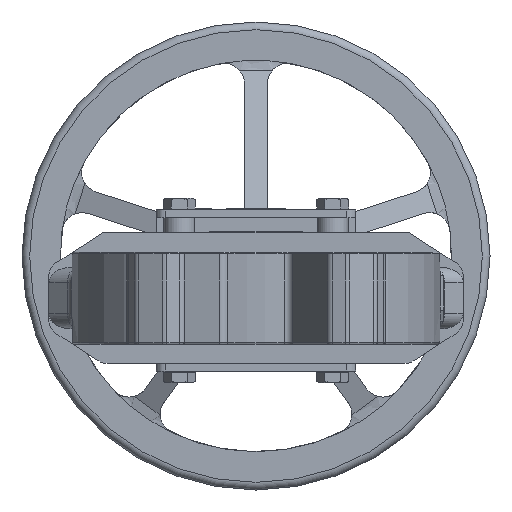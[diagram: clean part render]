
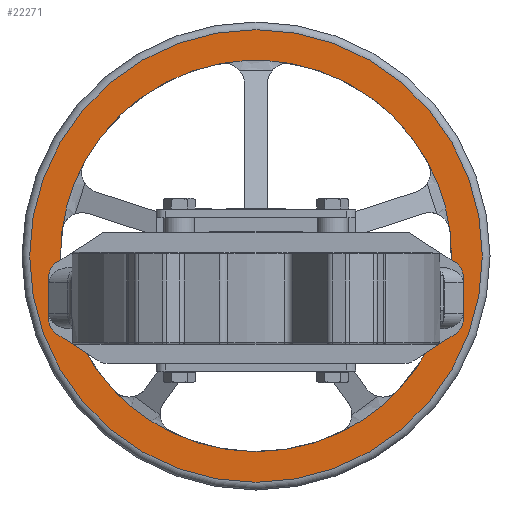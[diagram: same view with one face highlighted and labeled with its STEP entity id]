
A CAD part, front view. The second image highlights one B-rep face of the part: STEP entity #22271.
In plain terms, the highlighted planar face has unit normal (0, -1, 0).
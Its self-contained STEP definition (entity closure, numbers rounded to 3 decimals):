
#17884=CARTESIAN_POINT('',(-126.399,551.,44.221));
#17885=VERTEX_POINT('',#17884);
#18532=CARTESIAN_POINT('',(-54.962,551.,-87.545));
#18533=VERTEX_POINT('',#18532);
#19182=CARTESIAN_POINT('',(92.43,551.0,-60.323));
#19183=VERTEX_POINT('',#19182);
#19830=CARTESIAN_POINT('',(112.087,551.,88.268));
#19831=VERTEX_POINT('',#19830);
#20306=CARTESIAN_POINT('',(-112.087,551.,88.268));
#20307=VERTEX_POINT('',#20306);
#20327=CARTESIAN_POINT('',(0.,551.0,27.5));
#20328=DIRECTION('',(0.0,1.0,0.0));
#20329=DIRECTION('',(1.0,0.0,0.0));
#20330=AXIS2_PLACEMENT_3D('',#20327,#20328,#20329);
#20331=CIRCLE('',#20330,127.5);
#20332=EDGE_CURVE('',#17885,#20307,#20331,.T.);
#20487=CARTESIAN_POINT('',(-92.43,551.,-60.323));
#20488=VERTEX_POINT('',#20487);
#20508=CARTESIAN_POINT('',(0.,551.0,27.5));
#20509=DIRECTION('',(0.0,1.0,0.0));
#20510=DIRECTION('',(1.0,0.0,0.0));
#20511=AXIS2_PLACEMENT_3D('',#20508,#20509,#20510);
#20512=CIRCLE('',#20511,127.5);
#20513=EDGE_CURVE('',#18533,#20488,#20512,.T.);
#20665=CARTESIAN_POINT('',(54.962,551.0,-87.545));
#20666=VERTEX_POINT('',#20665);
#20686=CARTESIAN_POINT('',(0.,551.0,27.5));
#20687=DIRECTION('',(0.0,1.0,0.0));
#20688=DIRECTION('',(1.0,0.0,0.0));
#20689=AXIS2_PLACEMENT_3D('',#20686,#20687,#20688);
#20690=CIRCLE('',#20689,127.5);
#20691=EDGE_CURVE('',#19183,#20666,#20690,.T.);
#20846=CARTESIAN_POINT('',(126.399,551.,44.221));
#20847=VERTEX_POINT('',#20846);
#20867=CARTESIAN_POINT('',(0.,551.0,27.5));
#20868=DIRECTION('',(0.0,1.0,0.0));
#20869=DIRECTION('',(1.0,0.0,0.0));
#20870=AXIS2_PLACEMENT_3D('',#20867,#20868,#20869);
#20871=CIRCLE('',#20870,127.5);
#20872=EDGE_CURVE('',#19831,#20847,#20871,.T.);
#20894=CARTESIAN_POINT('',(0.,551.0,27.5));
#20895=DIRECTION('',(0.0,1.0,0.0));
#20896=DIRECTION('',(1.0,0.0,0.0));
#20897=AXIS2_PLACEMENT_3D('',#20894,#20895,#20896);
#20898=CIRCLE('',#20897,127.5);
#20899=EDGE_CURVE('',#20488,#17885,#20898,.T.);
#20904=CARTESIAN_POINT('',(0.,551.0,27.5));
#20905=DIRECTION('',(0.0,1.0,0.0));
#20906=DIRECTION('',(1.0,0.0,0.0));
#20907=AXIS2_PLACEMENT_3D('',#20904,#20905,#20906);
#20908=CIRCLE('',#20907,127.5);
#20909=EDGE_CURVE('',#20666,#18533,#20908,.T.);
#20914=CARTESIAN_POINT('',(0.,551.0,27.5));
#20915=DIRECTION('',(0.0,1.0,0.0));
#20916=DIRECTION('',(1.0,0.0,0.0));
#20917=AXIS2_PLACEMENT_3D('',#20914,#20915,#20916);
#20918=CIRCLE('',#20917,127.5);
#20919=EDGE_CURVE('',#20847,#19183,#20918,.T.);
#20929=CARTESIAN_POINT('',(23.156,551.0,152.88));
#20930=VERTEX_POINT('',#20929);
#20931=CARTESIAN_POINT('',(0.,551.0,27.5));
#20932=DIRECTION('',(0.0,1.0,0.0));
#20933=DIRECTION('',(1.0,0.0,0.0));
#20934=AXIS2_PLACEMENT_3D('',#20931,#20932,#20933);
#20935=CIRCLE('',#20934,127.5);
#20936=EDGE_CURVE('',#20930,#19831,#20935,.T.);
#20955=CARTESIAN_POINT('',(-23.156,551.0,152.88));
#20956=VERTEX_POINT('',#20955);
#20963=CARTESIAN_POINT('',(0.,551.0,27.5));
#20964=DIRECTION('',(0.0,1.0,0.0));
#20965=DIRECTION('',(1.0,0.0,0.0));
#20966=AXIS2_PLACEMENT_3D('',#20963,#20964,#20965);
#20967=CIRCLE('',#20966,127.5);
#20968=EDGE_CURVE('',#20307,#20956,#20967,.T.);
#22213=CARTESIAN_POINT('',(-147.5,551.,27.5));
#22214=VERTEX_POINT('',#22213);
#22215=CARTESIAN_POINT('',(0.,551.0,27.5));
#22216=DIRECTION('',(0.0,1.0,0.0));
#22217=DIRECTION('',(1.0,0.0,0.0));
#22218=AXIS2_PLACEMENT_3D('',#22215,#22216,#22217);
#22219=CIRCLE('',#22218,147.5);
#22220=EDGE_CURVE('',#22214,#22214,#22219,.T.);
#22245=CARTESIAN_POINT('',(0.,551.0,27.5));
#22246=DIRECTION('',(0.0,1.0,0.0));
#22247=DIRECTION('',(-1.0,0.0,0.0));
#22248=AXIS2_PLACEMENT_3D('',#22245,#22246,#22247);
#22249=PLANE('',#22248);
#22250=ORIENTED_EDGE('',*,*,#22220,.F.);
#22251=EDGE_LOOP('',(#22250));
#22252=FACE_OUTER_BOUND('',#22251,.T.);
#22253=ORIENTED_EDGE('',*,*,#20936,.T.);
#22254=ORIENTED_EDGE('',*,*,#20872,.T.);
#22255=ORIENTED_EDGE('',*,*,#20919,.T.);
#22256=ORIENTED_EDGE('',*,*,#20691,.T.);
#22257=ORIENTED_EDGE('',*,*,#20909,.T.);
#22258=ORIENTED_EDGE('',*,*,#20513,.T.);
#22259=ORIENTED_EDGE('',*,*,#20899,.T.);
#22260=ORIENTED_EDGE('',*,*,#20332,.T.);
#22261=ORIENTED_EDGE('',*,*,#20968,.T.);
#22262=CARTESIAN_POINT('',(0.,551.0,27.5));
#22263=DIRECTION('',(0.0,1.0,0.0));
#22264=DIRECTION('',(1.0,0.0,0.0));
#22265=AXIS2_PLACEMENT_3D('',#22262,#22263,#22264);
#22266=CIRCLE('',#22265,127.5);
#22267=EDGE_CURVE('',#20956,#20930,#22266,.T.);
#22268=ORIENTED_EDGE('',*,*,#22267,.T.);
#22269=EDGE_LOOP('',(#22253,#22254,#22255,#22256,#22257,#22258,#22259,#22260,#22261,#22268));
#22270=FACE_BOUND('',#22269,.T.);
#22271=ADVANCED_FACE('',(#22252,#22270),#22249,.F.);
